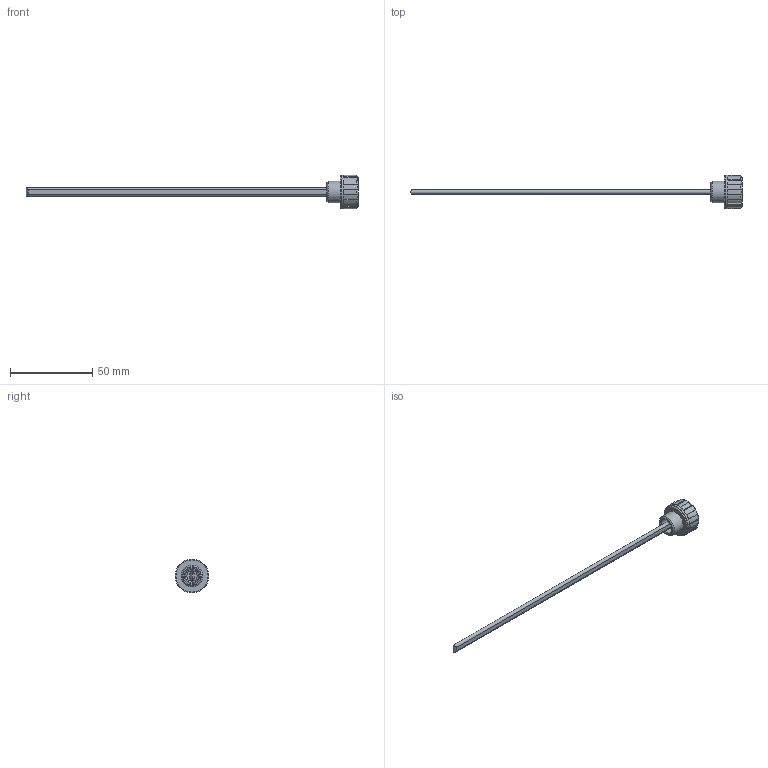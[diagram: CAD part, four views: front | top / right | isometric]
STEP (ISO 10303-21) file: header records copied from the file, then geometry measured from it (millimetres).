
FILE_DESCRIPTION( ( 'STEP AP203' ), '1' );
FILE_NAME( 'C:/Temp/Ganter_Step_05_03_2020/data/3_5/gn548_1/Plug GN 548.1-G1_4-B.stp', '2020-03-12T13:35:45', ( 'License CC BY-ND 4.0' ), ( 'CADENAS' ), ' ', 'PARTsolutions', ' ' );
FILE_SCHEMA( ( 'CONFIG_CONTROL_DESIGN' ) );
Length unit declared in the file: millimetre
Products named in the file (1): _Plug GN 548.1-G1/4-B
Bounding box: 202 x 20.5 x 20.5 mm (x, y, z)
Volume: 5838.5 mm3; surface area: 4780.7 mm2
Topology: 1 solids, 1 shells, 62 faces, 160 edges, 106 vertices
Faces by surface type: plane 31, cylinder 26, cone 3, torus 2
Full cylindrical faces by diameter (mm): 13.157 x1, 18.636 x1, 19.475 x1, 20.5 x1
Entity records: 1909 total; most frequent: CARTESIAN_POINT 376, DIRECTION 315, ORIENTED_EDGE 298, EDGE_CURVE 149, AXIS2_PLACEMENT_3D 123, VERTEX_POINT 104, EDGE_LOOP 77, LINE 69
